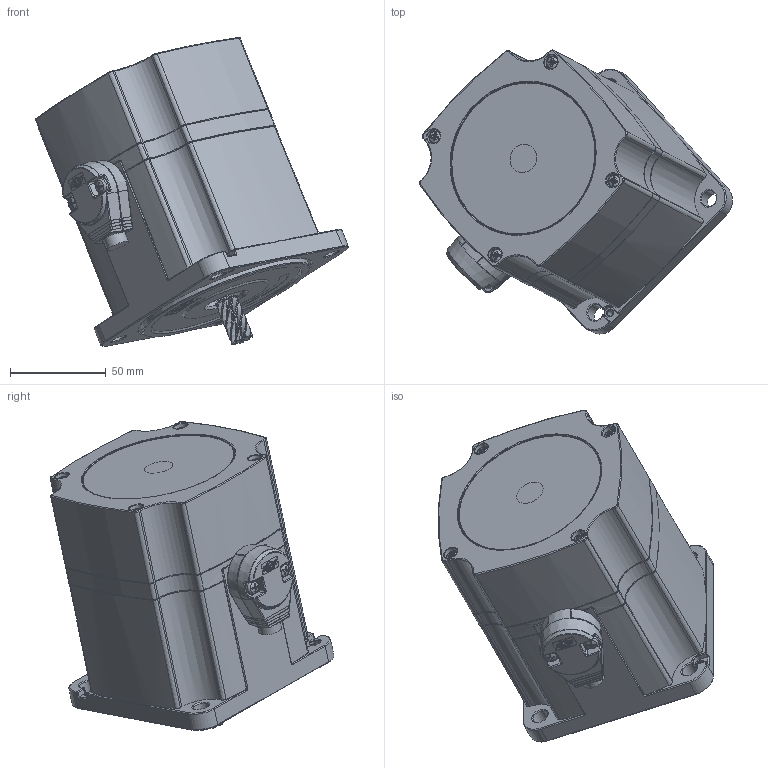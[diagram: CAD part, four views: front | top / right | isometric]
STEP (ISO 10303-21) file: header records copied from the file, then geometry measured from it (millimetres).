
FILE_DESCRIPTION(/* description */ (''),/* implementation_level */ '2;1');
FILE_NAME(/* name */ 'Y:\제품연구개발\4. 개발프로젝트\2. 프로젝트_제품군별\5. STANDARD BLDC\07_외부 발송용 자료\9_외부 발송 자료\XVM10200G-E.stp',/* time_stamp */ '2020-11-24T15:38:58+09:00',/* author */ ('jingon'),/* organization */ (''),/* preprocessor_version */ 'ST-DEVELOPER v18',/* originating_system */ 'Autodesk Inventor 2020',/* authorisation */ '');
FILE_SCHEMA (('AUTOMOTIVE_DESIGN { 1 0 10303 214 3 1 1 }'));
Products named in the file (1): XVM10200G-E
Bounding box: 163.75 x 148.42 x 161.66 mm (x, y, z)
Volume: 1167512.3 mm3; surface area: 107677.7 mm2
Topology: 11 solids, 19 shells, 1513 faces, 4125 edges, 2632 vertices
Faces by surface type: plane 530, cylinder 486, cone 162, torus 147, bspline 120, sphere 68
Full cylindrical faces by diameter (mm): 1.6 x1, 2.459 x4, 3.242 x4, 3.5 x2, 3.571 x6, 4 x6, 4.4 x4, 7.5 x4, 8.5 x4, 12 x1, 12.14 x1, 12.5 x1, 13 x1, 15 x2, 18 x1, 20.542 x2, 23 x1, 80.5 x1, 94 x1, 98 x1
Entity records: 58026 total; most frequent: CARTESIAN_POINT 18667, ORIENTED_EDGE 8160, DIRECTION 8018, EDGE_CURVE 4080, AXIS2_PLACEMENT_3D 3219, VERTEX_POINT 2632, CIRCLE 1668, LINE 1580
